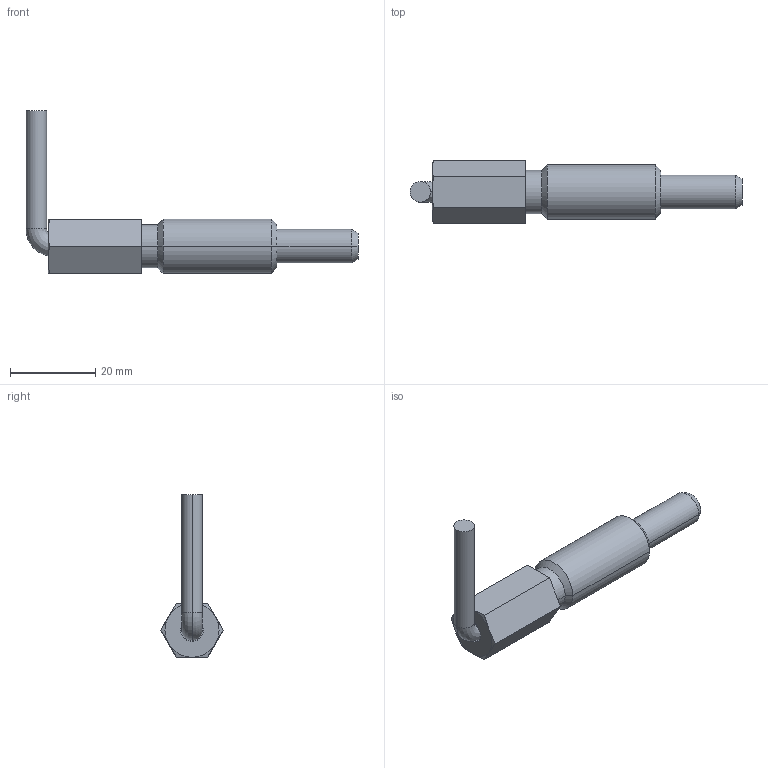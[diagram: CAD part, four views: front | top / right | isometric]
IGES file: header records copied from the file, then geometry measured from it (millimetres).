
Start section:  PTC IGES file: frn500-part.igs
Global section: file name: frn500-part.igs; native system: Pro/ENGINEER by Parametric Technology Corporation; preprocessor: 2002350; author: chant; organization: Unknown; date: 070614.112935; units: inch
Bounding box: 77.85 x 14.66 x 38.1 mm (x, y, z)
Surface area: 5494.9 mm2 (no closed solid volume)
Topology: 0 solids, 0 shells, 41 faces, 255 edges, 315 vertices
Faces by surface type: revolution 28, bspline 13
